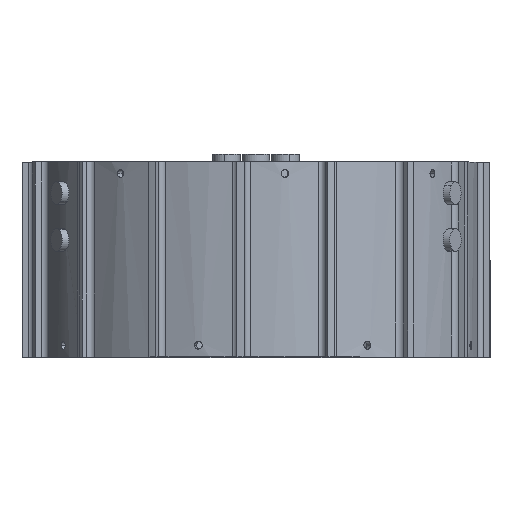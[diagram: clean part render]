
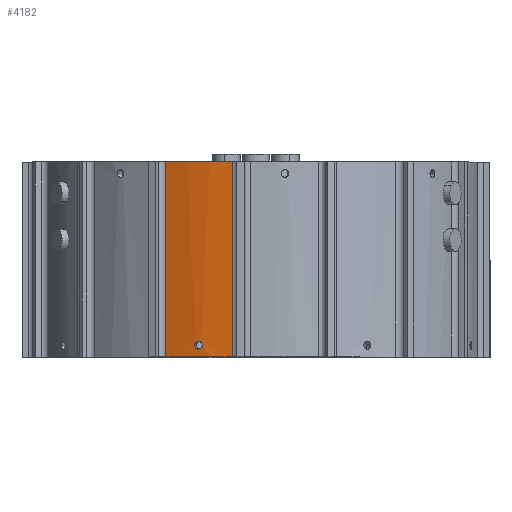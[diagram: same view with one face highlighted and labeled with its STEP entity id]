
A CAD part, top view. The second image highlights one B-rep face of the part: STEP entity #4182.
In plain terms, the highlighted cylindrical face has radius 57 mm (diameter 114 mm), a partial arc.
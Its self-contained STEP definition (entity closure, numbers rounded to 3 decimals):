
#49 = DIRECTION ( 'NONE',  ( 0., 0., 1. ) ) ;
#54 = EDGE_CURVE ( 'NONE', #547, #11230, #3466, .T. ) ;
#199 = CARTESIAN_POINT ( 'NONE',  ( 51.708, -23.985, 0. ) ) ;
#547 = VERTEX_POINT ( 'NONE', #2134 ) ;
#593 = CARTESIAN_POINT ( 'NONE',  ( 47.05, -32.176, 47.801 ) ) ;
#638 = CARTESIAN_POINT ( 'NONE',  ( 0., 0., 0. ) ) ;
#1137 = EDGE_CURVE ( 'NONE', #5272, #8959, #5427, .T. ) ;
#1309 = CARTESIAN_POINT ( 'NONE',  ( 47.942, -30.831, 47. ) ) ;
#1615 = CARTESIAN_POINT ( 'NONE',  ( 46.846, -32.473, 46.738 ) ) ;
#1746 = EDGE_CURVE ( 'NONE', #5272, #5778, #5122, .T. ) ;
#1751 = CARTESIAN_POINT ( 'NONE',  ( 0., 0., 50. ) ) ;
#1922 = EDGE_LOOP ( 'NONE', ( #9635, #8507 ) ) ;
#1995 = CARTESIAN_POINT ( 'NONE',  ( 41.947, -38.593, -6.413 ) ) ;
#2108 = CARTESIAN_POINT ( 'NONE',  ( 0., 0., 50. ) ) ;
#2134 = CARTESIAN_POINT ( 'NONE',  ( 46.831, -32.494, 47. ) ) ;
#2359 = AXIS2_PLACEMENT_3D ( 'NONE', #638, #12336, #7504 ) ;
#2400 = CARTESIAN_POINT ( 'NONE',  ( 46.831, -32.494, 46.869 ) ) ;
#2433 = AXIS2_PLACEMENT_3D ( 'NONE', #1751, #5665, #6126 ) ;
#2719 = FACE_BOUND ( 'NONE', #1922, .T. ) ;
#3080 = DIRECTION ( 'NONE',  ( 1., 0., 0. ) ) ;
#3135 = EDGE_CURVE ( 'NONE', #5778, #9951, #7218, .T. ) ;
#3190 = CARTESIAN_POINT ( 'NONE',  ( 47.539, -31.449, 47.974 ) ) ;
#3322 = CARTESIAN_POINT ( 'NONE',  ( 47.733, -31.155, 47.799 ) ) ;
#3449 = CARTESIAN_POINT ( 'NONE',  ( 46.831, -32.494, 47. ) ) ;
#3466 = B_SPLINE_CURVE_WITH_KNOTS ( 'NONE', 3,
 ( #6590, #2400, #1615, #5276, #11322, #12262, #5522, #4378, #7499, #9149, #4501, #8187, #7310, #6358, #3623, #8319 ),
 .UNSPECIFIED., .F., .F.,
 ( 4, 2, 2, 2, 2, 2, 2, 4 ),
 ( 0.003, 0.004, 0.004, 0.004, 0.005, 0.005, 0.005, 0.006 ),
 .UNSPECIFIED. ) ;
#3623 = CARTESIAN_POINT ( 'NONE',  ( 47.942, -30.831, 46.736 ) ) ;
#3681 = ORIENTED_EDGE ( 'NONE', *, *, #1746, .F. ) ;
#3989 = VECTOR ( 'NONE', #49, 1000. ) ;
#4157 = AXIS2_PLACEMENT_3D ( 'NONE', #2108, #8698, #3080 ) ;
#4182 = ADVANCED_FACE ( 'NONE', ( #7566, #2719 ), #11458, .T. ) ;
#4378 = CARTESIAN_POINT ( 'NONE',  ( 47.247, -31.886, 46.026 ) ) ;
#4501 = CARTESIAN_POINT ( 'NONE',  ( 47.538, -31.45, 46.026 ) ) ;
#4520 = CARTESIAN_POINT ( 'NONE',  ( 46.903, -32.39, 47.504 ) ) ;
#5122 = LINE ( 'NONE', #1995, #3989 ) ;
#5217 = CARTESIAN_POINT ( 'NONE',  ( 47.942, -30.831, 47. ) ) ;
#5272 = VERTEX_POINT ( 'NONE', #9342 ) ;
#5276 = CARTESIAN_POINT ( 'NONE',  ( 46.903, -32.391, 46.497 ) ) ;
#5427 = CIRCLE ( 'NONE', #2359, 57. ) ;
#5522 = CARTESIAN_POINT ( 'NONE',  ( 47.112, -32.086, 46.127 ) ) ;
#5528 = ORIENTED_EDGE ( 'NONE', *, *, #3135, .F. ) ;
#5665 = DIRECTION ( 'NONE',  ( 0., 0., -1. ) ) ;
#5758 = CARTESIAN_POINT ( 'NONE',  ( 47.112, -32.085, 47.874 ) ) ;
#5778 = VERTEX_POINT ( 'NONE', #7221 ) ;
#6126 = DIRECTION ( 'NONE',  ( -1., 0., 0. ) ) ;
#6358 = CARTESIAN_POINT ( 'NONE',  ( 47.883, -30.923, 46.477 ) ) ;
#6590 = CARTESIAN_POINT ( 'NONE',  ( 46.831, -32.494, 47. ) ) ;
#7079 = CARTESIAN_POINT ( 'NONE',  ( 47.321, -31.776, 48. ) ) ;
#7198 = CARTESIAN_POINT ( 'NONE',  ( 47.466, -31.559, 48. ) ) ;
#7218 = CIRCLE ( 'NONE', #4157, 57. ) ;
#7221 = CARTESIAN_POINT ( 'NONE',  ( 41.947, -38.593, 50. ) ) ;
#7310 = CARTESIAN_POINT ( 'NONE',  ( 47.732, -31.155, 46.2 ) ) ;
#7448 = LINE ( 'NONE', #12026, #10695 ) ;
#7499 = CARTESIAN_POINT ( 'NONE',  ( 47.32, -31.778, 46. ) ) ;
#7504 = DIRECTION ( 'NONE',  ( 1., 0., 0. ) ) ;
#7566 = FACE_OUTER_BOUND ( 'NONE', #8612, .T. ) ;
#7812 = ORIENTED_EDGE ( 'NONE', *, *, #1137, .T. ) ;
#7883 = CARTESIAN_POINT ( 'NONE',  ( 51.708, -23.985, 50. ) ) ;
#8010 = CARTESIAN_POINT ( 'NONE',  ( 47.833, -31., 47.615 ) ) ;
#8142 = CARTESIAN_POINT ( 'NONE',  ( 47.942, -30.831, 47.132 ) ) ;
#8187 = CARTESIAN_POINT ( 'NONE',  ( 47.672, -31.248, 46.126 ) ) ;
#8319 = CARTESIAN_POINT ( 'NONE',  ( 47.942, -30.831, 47. ) ) ;
#8498 = B_SPLINE_CURVE_WITH_KNOTS ( 'NONE', 3,
 ( #1309, #8142, #10889, #12028, #8010, #3322, #11898, #3190, #7198, #7079, #11077, #5758, #593, #12279, #4520, #9406, #12162, #3449 ),
 .UNSPECIFIED., .F., .F.,
 ( 4, 2, 2, 2, 2, 2, 2, 2, 4 ),
 ( 0., 0., 0.001, 0.001, 0.002, 0.002, 0.002, 0.003, 0.003 ),
 .UNSPECIFIED. ) ;
#8507 = ORIENTED_EDGE ( 'NONE', *, *, #54, .F. ) ;
#8612 = EDGE_LOOP ( 'NONE', ( #12464, #5528, #3681, #7812 ) ) ;
#8698 = DIRECTION ( 'NONE',  ( 0., 0., 1. ) ) ;
#8959 = VERTEX_POINT ( 'NONE', #199 ) ;
#9104 = DIRECTION ( 'NONE',  ( 0., 0., 1. ) ) ;
#9149 = CARTESIAN_POINT ( 'NONE',  ( 47.467, -31.559, 46. ) ) ;
#9342 = CARTESIAN_POINT ( 'NONE',  ( 41.947, -38.593, 0. ) ) ;
#9406 = CARTESIAN_POINT ( 'NONE',  ( 46.846, -32.473, 47.261 ) ) ;
#9635 = ORIENTED_EDGE ( 'NONE', *, *, #10840, .F. ) ;
#9724 = EDGE_CURVE ( 'NONE', #8959, #9951, #7448, .T. ) ;
#9951 = VERTEX_POINT ( 'NONE', #7883 ) ;
#10695 = VECTOR ( 'NONE', #9104, 1000. ) ;
#10840 = EDGE_CURVE ( 'NONE', #11230, #547, #8498, .T. ) ;
#10889 = CARTESIAN_POINT ( 'NONE',  ( 47.928, -30.853, 47.262 ) ) ;
#11077 = CARTESIAN_POINT ( 'NONE',  ( 47.248, -31.884, 47.974 ) ) ;
#11230 = VERTEX_POINT ( 'NONE', #5217 ) ;
#11322 = CARTESIAN_POINT ( 'NONE',  ( 46.945, -32.329, 46.386 ) ) ;
#11458 = CYLINDRICAL_SURFACE ( 'NONE', #2433, 57. ) ;
#11898 = CARTESIAN_POINT ( 'NONE',  ( 47.672, -31.248, 47.874 ) ) ;
#12026 = CARTESIAN_POINT ( 'NONE',  ( 51.708, -23.985, -6.001 ) ) ;
#12028 = CARTESIAN_POINT ( 'NONE',  ( 47.874, -30.937, 47.504 ) ) ;
#12162 = CARTESIAN_POINT ( 'NONE',  ( 46.831, -32.494, 47.131 ) ) ;
#12262 = CARTESIAN_POINT ( 'NONE',  ( 47.049, -32.177, 46.201 ) ) ;
#12279 = CARTESIAN_POINT ( 'NONE',  ( 46.945, -32.33, 47.614 ) ) ;
#12336 = DIRECTION ( 'NONE',  ( 0., 0., 1. ) ) ;
#12464 = ORIENTED_EDGE ( 'NONE', *, *, #9724, .T. ) ;
